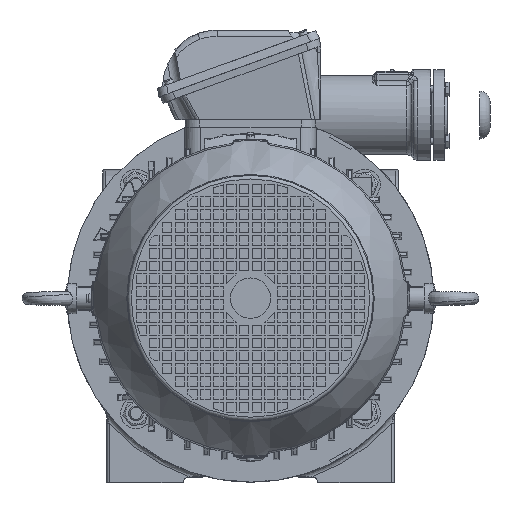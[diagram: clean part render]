
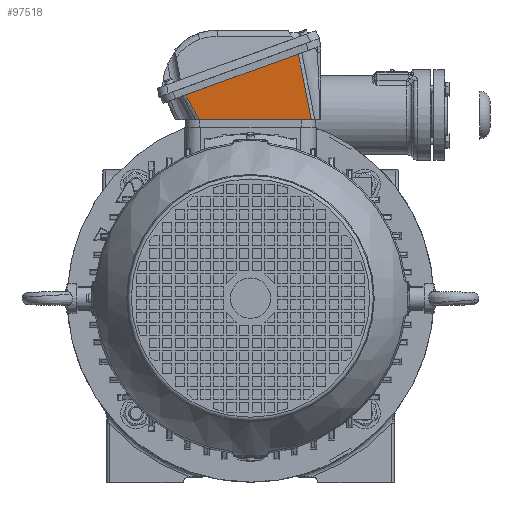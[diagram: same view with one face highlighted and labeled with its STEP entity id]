
A CAD part, top view. The second image highlights one B-rep face of the part: STEP entity #97518.
In plain terms, the highlighted planar face has unit normal (0.036, -0.098, 0.995).
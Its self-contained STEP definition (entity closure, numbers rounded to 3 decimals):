
#3411=B_SPLINE_CURVE_WITH_KNOTS('',3,(#164593,#164594,#164595,#164596),
 .UNSPECIFIED.,.F.,.F.,(4,4),(0.,0.023),.UNSPECIFIED.);
#3412=B_SPLINE_CURVE_WITH_KNOTS('',3,(#164597,#164598,#164599,#164600,#164601,
#164602,#164603,#164604,#164605,#164606,#164607,#164608,#164609),
 .UNSPECIFIED.,.F.,.F.,(4,3,3,3,4),(0.,0.027,0.027,
0.05,0.055),.UNSPECIFIED.);
#14084=FACE_OUTER_BOUND('',#19978,.T.);
#19978=EDGE_LOOP('',(#76801,#76802,#76803,#76804));
#27836=LINE('',#164495,#35128);
#27840=LINE('',#164592,#35132);
#35128=VECTOR('',#120075,1000.);
#35132=VECTOR('',#120089,1000.);
#45467=VERTEX_POINT('',#164493);
#45468=VERTEX_POINT('',#164494);
#45483=VERTEX_POINT('',#164590);
#45484=VERTEX_POINT('',#164591);
#56589=EDGE_CURVE('',#45467,#45468,#27836,.T.);
#56605=EDGE_CURVE('',#45483,#45484,#27840,.T.);
#56606=EDGE_CURVE('',#45484,#45468,#3411,.T.);
#56607=EDGE_CURVE('',#45467,#45483,#3412,.T.);
#76801=ORIENTED_EDGE('',*,*,#56605,.T.);
#76802=ORIENTED_EDGE('',*,*,#56606,.T.);
#76803=ORIENTED_EDGE('',*,*,#56589,.F.);
#76804=ORIENTED_EDGE('',*,*,#56607,.T.);
#93922=PLANE('',#104009);
#97518=ADVANCED_FACE('',(#14084),#93922,.T.);
#104009=AXIS2_PLACEMENT_3D('',#164589,#120087,#120088);
#120075=DIRECTION('',(-0.999,0.,0.036));
#120087=DIRECTION('center_axis',(0.036,-0.098,
0.995));
#120088=DIRECTION('ref_axis',(0.,0.995,0.098));
#120089=DIRECTION('',(-0.94,-0.342,0.));
#164493=CARTESIAN_POINT('',(49.714,146.5,315.598));
#164494=CARTESIAN_POINT('',(-41.969,146.5,318.894));
#164495=CARTESIAN_POINT('',(52.77,146.5,315.489));
#164589=CARTESIAN_POINT('Origin',(53.,211.5,321.9));
#164590=CARTESIAN_POINT('',(39.196,200.091,321.269));
#164591=CARTESIAN_POINT('',(-53.103,166.497,321.269));
#164592=CARTESIAN_POINT('',(55.052,205.862,321.269));
#164593=CARTESIAN_POINT('Ctrl Pts',(-53.103,166.497,
321.269));
#164594=CARTESIAN_POINT('Ctrl Pts',(-49.364,159.847,
320.478));
#164595=CARTESIAN_POINT('Ctrl Pts',(-45.658,153.178,
319.686));
#164596=CARTESIAN_POINT('Ctrl Pts',(-41.969,146.5,318.894));
#164597=CARTESIAN_POINT('Ctrl Pts',(49.714,146.5,315.598));
#164598=CARTESIAN_POINT('Ctrl Pts',(47.933,155.339,316.535));
#164599=CARTESIAN_POINT('Ctrl Pts',(46.165,164.18,317.472));
#164600=CARTESIAN_POINT('Ctrl Pts',(44.422,173.026,318.409));
#164601=CARTESIAN_POINT('Ctrl Pts',(44.406,173.111,318.417));
#164602=CARTESIAN_POINT('Ctrl Pts',(44.389,173.195,318.426));
#164603=CARTESIAN_POINT('Ctrl Pts',(44.373,173.279,318.435));
#164604=CARTESIAN_POINT('Ctrl Pts',(42.919,180.657,319.216));
#164605=CARTESIAN_POINT('Ctrl Pts',(41.482,188.038,319.997));
#164606=CARTESIAN_POINT('Ctrl Pts',(40.078,195.426,320.777));
#164607=CARTESIAN_POINT('Ctrl Pts',(39.782,196.981,320.941));
#164608=CARTESIAN_POINT('Ctrl Pts',(39.488,198.535,321.105));
#164609=CARTESIAN_POINT('Ctrl Pts',(39.196,200.091,321.269));
